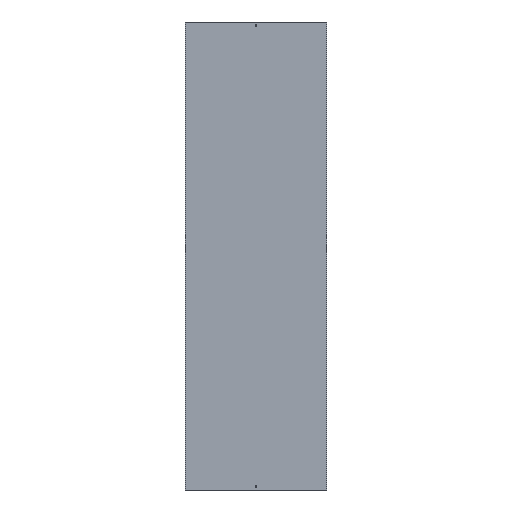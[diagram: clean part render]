
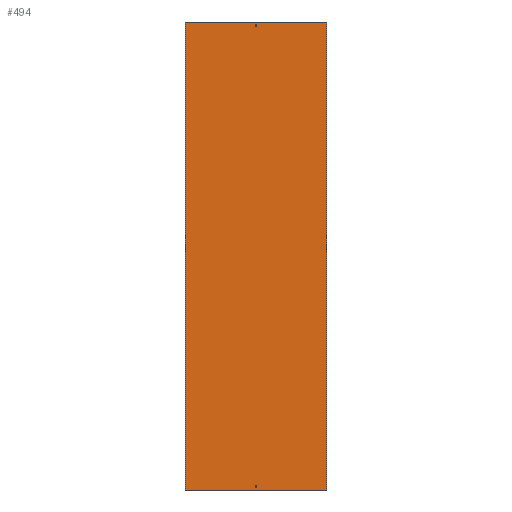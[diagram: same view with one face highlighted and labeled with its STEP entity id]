
A CAD part, front view. The second image highlights one B-rep face of the part: STEP entity #494.
In plain terms, the highlighted planar face has unit normal (0, -1, 0).
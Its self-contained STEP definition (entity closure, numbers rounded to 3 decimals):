
#9 = DIRECTION ( 'NONE',  ( 0., 0., 1. ) ) ;
#13 = EDGE_CURVE ( 'NONE', #349, #255, #1226, .T. ) ;
#27 = VERTEX_POINT ( 'NONE', #1454 ) ;
#39 = LINE ( 'NONE', #822, #1037 ) ;
#58 = CARTESIAN_POINT ( 'NONE',  ( -3.25, 0., 979. ) ) ;
#66 = CARTESIAN_POINT ( 'NONE',  ( -302., 0., -1000. ) ) ;
#70 = DIRECTION ( 'NONE',  ( 1., 0., 0. ) ) ;
#93 = ORIENTED_EDGE ( 'NONE', *, *, #616, .T. ) ;
#94 = LINE ( 'NONE', #877, #928 ) ;
#96 = CARTESIAN_POINT ( 'NONE',  ( 302., 0., 1000. ) ) ;
#97 = CARTESIAN_POINT ( 'NONE',  ( 302., 0., 1000. ) ) ;
#127 = EDGE_CURVE ( 'NONE', #234, #1318, #367, .T. ) ;
#159 = EDGE_CURVE ( 'NONE', #1318, #1313, #614, .T. ) ;
#179 = CARTESIAN_POINT ( 'NONE',  ( -3.25, 0., -979. ) ) ;
#184 = CARTESIAN_POINT ( 'NONE',  ( -3.25, 0., 988. ) ) ;
#190 = EDGE_LOOP ( 'NONE', ( #213, #623, #1066, #260 ) ) ;
#204 = DIRECTION ( 'NONE',  ( 1., 0., 0. ) ) ;
#213 = ORIENTED_EDGE ( 'NONE', *, *, #1247, .F. ) ;
#225 = EDGE_LOOP ( 'NONE', ( #1403, #1085, #385, #1430 ) ) ;
#234 = VERTEX_POINT ( 'NONE', #638 ) ;
#252 = EDGE_CURVE ( 'NONE', #1245, #1178, #1664, .T. ) ;
#255 = VERTEX_POINT ( 'NONE', #1432 ) ;
#258 = LINE ( 'NONE', #1069, #982 ) ;
#260 = ORIENTED_EDGE ( 'NONE', *, *, #1518, .F. ) ;
#285 = DIRECTION ( 'NONE',  ( 0., 0., -1. ) ) ;
#287 = FACE_OUTER_BOUND ( 'NONE', #454, .T. ) ;
#298 = VECTOR ( 'NONE', #204, 1000. ) ;
#299 = VECTOR ( 'NONE', #569, 1000. ) ;
#309 = DIRECTION ( 'NONE',  ( 1., 0., 0. ) ) ;
#328 = VECTOR ( 'NONE', #1362, 1000. ) ;
#349 = VERTEX_POINT ( 'NONE', #504 ) ;
#367 = LINE ( 'NONE', #598, #298 ) ;
#385 = ORIENTED_EDGE ( 'NONE', *, *, #13, .T. ) ;
#389 = DIRECTION ( 'NONE',  ( -1., 0., 0. ) ) ;
#450 = CARTESIAN_POINT ( 'NONE',  ( -302., 0., 1000. ) ) ;
#454 = EDGE_LOOP ( 'NONE', ( #753, #1315, #833, #93 ) ) ;
#464 = DIRECTION ( 'NONE',  ( -1., 0., 0. ) ) ;
#494 = ADVANCED_FACE ( 'NONE', ( #287, #841, #809 ), #1612, .F. ) ;
#504 = CARTESIAN_POINT ( 'NONE',  ( 3.25, 0., -979. ) ) ;
#569 = DIRECTION ( 'NONE',  ( 0., 0., -1. ) ) ;
#594 = LINE ( 'NONE', #1237, #328 ) ;
#598 = CARTESIAN_POINT ( 'NONE',  ( -302., 0., 1000. ) ) ;
#609 = EDGE_CURVE ( 'NONE', #808, #1313, #94, .T. ) ;
#614 = LINE ( 'NONE', #96, #1273 ) ;
#616 = EDGE_CURVE ( 'NONE', #234, #808, #258, .T. ) ;
#623 = ORIENTED_EDGE ( 'NONE', *, *, #835, .F. ) ;
#638 = CARTESIAN_POINT ( 'NONE',  ( -302., 0., 1000. ) ) ;
#666 = VERTEX_POINT ( 'NONE', #1059 ) ;
#698 = CARTESIAN_POINT ( 'NONE',  ( 3.25, 0., -988. ) ) ;
#748 = EDGE_CURVE ( 'NONE', #27, #666, #594, .T. ) ;
#753 = ORIENTED_EDGE ( 'NONE', *, *, #609, .T. ) ;
#792 = CARTESIAN_POINT ( 'NONE',  ( -3.25, 0., -988. ) ) ;
#794 = EDGE_CURVE ( 'NONE', #255, #1245, #1111, .T. ) ;
#800 = VERTEX_POINT ( 'NONE', #58 ) ;
#808 = VERTEX_POINT ( 'NONE', #66 ) ;
#809 = FACE_BOUND ( 'NONE', #225, .T. ) ;
#822 = CARTESIAN_POINT ( 'NONE',  ( -3.25, 0., 979. ) ) ;
#823 = VECTOR ( 'NONE', #70, 1000. ) ;
#833 = ORIENTED_EDGE ( 'NONE', *, *, #127, .F. ) ;
#835 = EDGE_CURVE ( 'NONE', #666, #800, #1490, .T. ) ;
#841 = FACE_BOUND ( 'NONE', #190, .T. ) ;
#877 = CARTESIAN_POINT ( 'NONE',  ( -302., 0., -1000. ) ) ;
#904 = LINE ( 'NONE', #1181, #1278 ) ;
#928 = VECTOR ( 'NONE', #943, 1000. ) ;
#943 = DIRECTION ( 'NONE',  ( 1., 0., 0. ) ) ;
#953 = LINE ( 'NONE', #179, #823 ) ;
#969 = DIRECTION ( 'NONE',  ( 0., 1., 0. ) ) ;
#980 = DIRECTION ( 'NONE',  ( 0., 0., -1. ) ) ;
#982 = VECTOR ( 'NONE', #285, 1000. ) ;
#1037 = VECTOR ( 'NONE', #309, 1000. ) ;
#1039 = DIRECTION ( 'NONE',  ( 0., 0., 1. ) ) ;
#1059 = CARTESIAN_POINT ( 'NONE',  ( -3.25, 0., 988. ) ) ;
#1066 = ORIENTED_EDGE ( 'NONE', *, *, #748, .F. ) ;
#1069 = CARTESIAN_POINT ( 'NONE',  ( -302., 0., 1000. ) ) ;
#1085 = ORIENTED_EDGE ( 'NONE', *, *, #1613, .T. ) ;
#1102 = CARTESIAN_POINT ( 'NONE',  ( -3.25, 0., -988. ) ) ;
#1111 = LINE ( 'NONE', #1102, #1274 ) ;
#1142 = VECTOR ( 'NONE', #1460, 1000. ) ;
#1168 = AXIS2_PLACEMENT_3D ( 'NONE', #450, #969, #389 ) ;
#1178 = VERTEX_POINT ( 'NONE', #1480 ) ;
#1181 = CARTESIAN_POINT ( 'NONE',  ( 3.25, 0., 988. ) ) ;
#1226 = LINE ( 'NONE', #698, #1142 ) ;
#1237 = CARTESIAN_POINT ( 'NONE',  ( -3.25, 0., 988. ) ) ;
#1245 = VERTEX_POINT ( 'NONE', #1461 ) ;
#1247 = EDGE_CURVE ( 'NONE', #800, #1599, #39, .T. ) ;
#1265 = CARTESIAN_POINT ( 'NONE',  ( 302., 0., -1000. ) ) ;
#1273 = VECTOR ( 'NONE', #980, 1000. ) ;
#1274 = VECTOR ( 'NONE', #464, 1000. ) ;
#1278 = VECTOR ( 'NONE', #1039, 1000. ) ;
#1313 = VERTEX_POINT ( 'NONE', #1265 ) ;
#1315 = ORIENTED_EDGE ( 'NONE', *, *, #159, .F. ) ;
#1318 = VERTEX_POINT ( 'NONE', #97 ) ;
#1362 = DIRECTION ( 'NONE',  ( -1., 0., 0. ) ) ;
#1403 = ORIENTED_EDGE ( 'NONE', *, *, #252, .T. ) ;
#1430 = ORIENTED_EDGE ( 'NONE', *, *, #794, .T. ) ;
#1432 = CARTESIAN_POINT ( 'NONE',  ( 3.25, 0., -988. ) ) ;
#1454 = CARTESIAN_POINT ( 'NONE',  ( 3.25, 0., 988. ) ) ;
#1460 = DIRECTION ( 'NONE',  ( 0., 0., -1. ) ) ;
#1461 = CARTESIAN_POINT ( 'NONE',  ( -3.25, 0., -988. ) ) ;
#1480 = CARTESIAN_POINT ( 'NONE',  ( -3.25, 0., -979. ) ) ;
#1490 = LINE ( 'NONE', #184, #299 ) ;
#1518 = EDGE_CURVE ( 'NONE', #1599, #27, #904, .T. ) ;
#1588 = CARTESIAN_POINT ( 'NONE',  ( 3.25, 0., 979. ) ) ;
#1599 = VERTEX_POINT ( 'NONE', #1588 ) ;
#1612 = PLANE ( 'NONE',  #1168 ) ;
#1613 = EDGE_CURVE ( 'NONE', #1178, #349, #953, .T. ) ;
#1628 = VECTOR ( 'NONE', #9, 1000. ) ;
#1664 = LINE ( 'NONE', #792, #1628 ) ;
